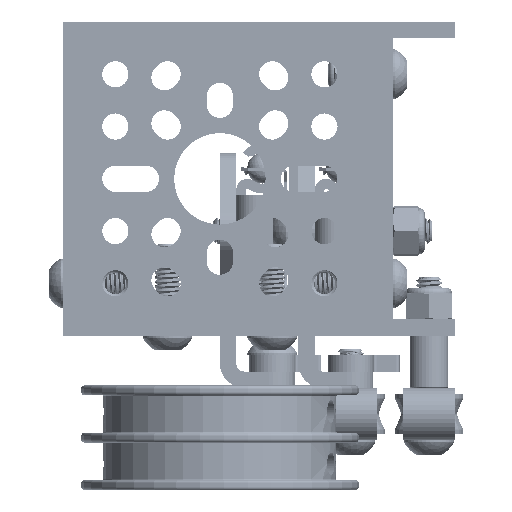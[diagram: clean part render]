
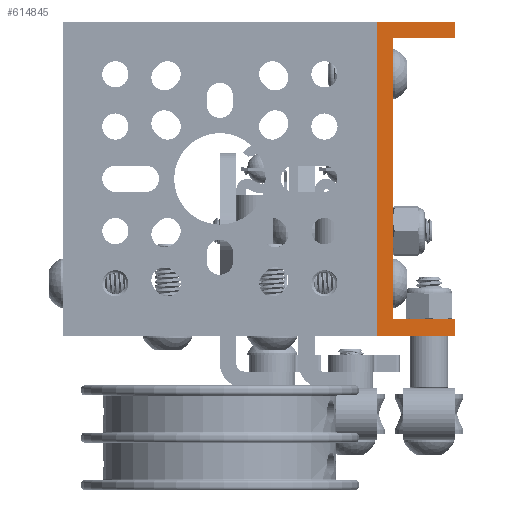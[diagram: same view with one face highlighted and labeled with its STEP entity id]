
A CAD part, front view. The second image highlights one B-rep face of the part: STEP entity #614845.
In plain terms, the highlighted planar face has unit normal (0, -1, 0).
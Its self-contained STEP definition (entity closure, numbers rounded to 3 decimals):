
#12894 = DIRECTION ( 'NONE',  ( 0., 0., -1. ) ) ;
#28324 = LINE ( 'NONE', #514997, #546835 ) ;
#33923 = VERTEX_POINT ( 'NONE', #365893 ) ;
#37172 = DIRECTION ( 'NONE',  ( -1., 0., 0. ) ) ;
#38051 = EDGE_CURVE ( 'NONE', #403717, #41532, #551626, .T. ) ;
#41532 = VERTEX_POINT ( 'NONE', #510337 ) ;
#46827 = CARTESIAN_POINT ( 'NONE',  ( -24., 0., 2.5 ) ) ;
#59028 = CARTESIAN_POINT ( 'NONE',  ( -24., 0., -45.5 ) ) ;
#59939 = EDGE_CURVE ( 'NONE', #598257, #558153, #595118, .T. ) ;
#77115 = LINE ( 'NONE', #420306, #587696 ) ;
#87504 = CARTESIAN_POINT ( 'NONE',  ( -12., 0., 0. ) ) ;
#104416 = EDGE_CURVE ( 'NONE', #413725, #342480, #506058, .T. ) ;
#137947 = FACE_OUTER_BOUND ( 'NONE', #215762, .T. ) ;
#140635 = CARTESIAN_POINT ( 'NONE',  ( -12., 0., -43. ) ) ;
#151021 = CARTESIAN_POINT ( 'NONE',  ( -12., 0., -43. ) ) ;
#174179 = ORIENTED_EDGE ( 'NONE', *, *, #572689, .F. ) ;
#177235 = LINE ( 'NONE', #329230, #455677 ) ;
#184114 = DIRECTION ( 'NONE',  ( 0., 0., -1. ) ) ;
#188380 = DIRECTION ( 'NONE',  ( 0., -1., 0. ) ) ;
#189850 = CARTESIAN_POINT ( 'NONE',  ( -21.5, 0., 0. ) ) ;
#198569 = DIRECTION ( 'NONE',  ( 1., 0., 0. ) ) ;
#201211 = DIRECTION ( 'NONE',  ( 0., 0., -1. ) ) ;
#205408 = CARTESIAN_POINT ( 'NONE',  ( -12., 0., 0. ) ) ;
#206544 = CARTESIAN_POINT ( 'NONE',  ( -24., 0., -45.5 ) ) ;
#215762 = EDGE_LOOP ( 'NONE', ( #263060, #580627, #422660, #448143, #616294, #428569, #174179, #296319 ) ) ;
#263060 = ORIENTED_EDGE ( 'NONE', *, *, #373027, .F. ) ;
#275513 = DIRECTION ( 'NONE',  ( 0., 0., -1. ) ) ;
#294292 = LINE ( 'NONE', #397977, #603719 ) ;
#296319 = ORIENTED_EDGE ( 'NONE', *, *, #104416, .F. ) ;
#301791 = DIRECTION ( 'NONE',  ( 0., 0., 1. ) ) ;
#309364 = AXIS2_PLACEMENT_3D ( 'NONE', #488651, #188380, #184114 ) ;
#319845 = VECTOR ( 'NONE', #12894, 1000. ) ;
#320521 = EDGE_CURVE ( 'NONE', #33923, #598257, #177235, .T. ) ;
#327131 = EDGE_CURVE ( 'NONE', #558153, #403717, #28324, .T. ) ;
#329230 = CARTESIAN_POINT ( 'NONE',  ( -21.5, 0., -45.5 ) ) ;
#342480 = VERTEX_POINT ( 'NONE', #140635 ) ;
#344807 = CARTESIAN_POINT ( 'NONE',  ( -21.5, 0., -43. ) ) ;
#365893 = CARTESIAN_POINT ( 'NONE',  ( -12., 0., -45.5 ) ) ;
#373027 = EDGE_CURVE ( 'NONE', #422802, #413725, #294292, .T. ) ;
#397977 = CARTESIAN_POINT ( 'NONE',  ( -21.5, 0., 0. ) ) ;
#403717 = VERTEX_POINT ( 'NONE', #528386 ) ;
#413547 = DIRECTION ( 'NONE',  ( 1., 0., 0. ) ) ;
#413725 = VERTEX_POINT ( 'NONE', #344807 ) ;
#420306 = CARTESIAN_POINT ( 'NONE',  ( -12., 0., -43. ) ) ;
#422660 = ORIENTED_EDGE ( 'NONE', *, *, #38051, .F. ) ;
#422802 = VERTEX_POINT ( 'NONE', #189850 ) ;
#428569 = ORIENTED_EDGE ( 'NONE', *, *, #320521, .F. ) ;
#436089 = VECTOR ( 'NONE', #198569, 1000. ) ;
#438825 = EDGE_CURVE ( 'NONE', #41532, #422802, #581049, .T. ) ;
#448143 = ORIENTED_EDGE ( 'NONE', *, *, #327131, .F. ) ;
#455677 = VECTOR ( 'NONE', #37172, 1000. ) ;
#486581 = VECTOR ( 'NONE', #301791, 1000. ) ;
#488651 = CARTESIAN_POINT ( 'NONE',  ( 0., 0., 0. ) ) ;
#506058 = LINE ( 'NONE', #151021, #436089 ) ;
#510337 = CARTESIAN_POINT ( 'NONE',  ( -12., 0., 0. ) ) ;
#514997 = CARTESIAN_POINT ( 'NONE',  ( 24., 0., 2.5 ) ) ;
#528386 = CARTESIAN_POINT ( 'NONE',  ( -12., 0., 2.5 ) ) ;
#534858 = DIRECTION ( 'NONE',  ( -1., 0., 0. ) ) ;
#546835 = VECTOR ( 'NONE', #413547, 1000. ) ;
#551626 = LINE ( 'NONE', #205408, #319845 ) ;
#558153 = VERTEX_POINT ( 'NONE', #46827 ) ;
#572689 = EDGE_CURVE ( 'NONE', #342480, #33923, #77115, .T. ) ;
#580627 = ORIENTED_EDGE ( 'NONE', *, *, #438825, .F. ) ;
#581049 = LINE ( 'NONE', #87504, #635079 ) ;
#583898 = PLANE ( 'NONE',  #309364 ) ;
#587696 = VECTOR ( 'NONE', #275513, 1000. ) ;
#595118 = LINE ( 'NONE', #206544, #486581 ) ;
#598257 = VERTEX_POINT ( 'NONE', #59028 ) ;
#603719 = VECTOR ( 'NONE', #201211, 1000. ) ;
#614845 = ADVANCED_FACE ( 'NONE', ( #137947 ), #583898, .T. ) ;
#616294 = ORIENTED_EDGE ( 'NONE', *, *, #59939, .F. ) ;
#635079 = VECTOR ( 'NONE', #534858, 1000. ) ;
